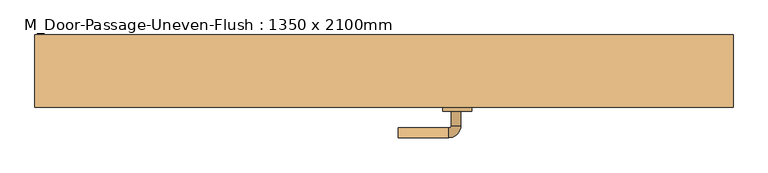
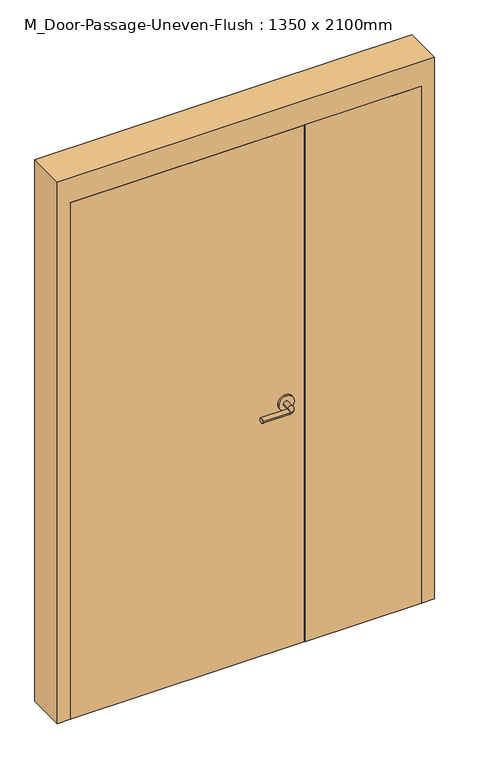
"""IFC4 building model written with IfcOpenShell, lengths in millimetres: door geometry, M_Door-Passage-Uneven-Flush : 1350 x 2100mm."""

import ifcopenshell
import ifcopenshell.guid

model = None  # the IFC model being written
_history = None  # IfcOwnerHistory: only IFC2X3 demands one
_inside = {}  # id of a spatial element -> (the spatial element, [elements in it])
_under = {}  # id of a project, library or spatial element -> (it, [spatial elements below it])
_declared = {}  # id of a project -> (the project, [libraries it declares])
_typed = {}  # id of a type object -> (the type object, [elements of that type])
_made_of = {}  # id of a material, layer set ... -> (it, [elements and type objects made of it])


def new_model(schema):
    """Start an empty IFC model of exactly this schema.

    Asked for "IFC4X3", IfcOpenShell would pick the latest addendum, in which some entities
    have other attributes; the version numbers below select the first issue.
    IFC2X3 requires an IfcOwnerHistory on every rooted entity: one is made here for all.
    """
    global model, _history
    if schema == "IFC4X3":
        model = ifcopenshell.file(schema_version=(4, 3, 0, 0))
    else:
        model = ifcopenshell.file(schema=schema)
    _inside.clear()
    _under.clear()
    _declared.clear()
    _typed.clear()
    _made_of.clear()
    _history = None
    if model.schema == "IFC2X3":
        org = make("IfcOrganization", Name="unknown")
        user = make(
            "IfcPersonAndOrganization",
            ThePerson=make("IfcPerson", FamilyName="unknown"),
            TheOrganization=org,
        )
        app = make(
            "IfcApplication",
            ApplicationDeveloper=org,
            Version="unknown",
            ApplicationFullName="unknown",
            ApplicationIdentifier="unknown",
        )
        _history = make(
            "IfcOwnerHistory",
            OwningUser=user,
            OwningApplication=app,
            ChangeAction="ADDED",
            CreationDate=0,
        )
    return model


def make(cls, **values):
    """One entity of the class cls with the attributes given. An attribute that is None is left unset."""
    return model.create_entity(
        cls, **{name: value for name, value in values.items() if value is not None}
    )


def rooted(cls, **values):
    """An entity with a GlobalId (a new one), such as an element, a storey or a relation."""
    return make(cls, GlobalId=ifcopenshell.guid.new(), OwnerHistory=_history, **values)


def si_unit(unit_type, name, prefix=None):
    """IfcSIUnit, for example si_unit("LENGTHUNIT", "METRE", prefix="MILLI")."""
    return make("IfcSIUnit", UnitType=unit_type, Prefix=prefix, Name=name)


def assignment(units):
    """IfcUnitAssignment: the units of a project."""
    return None if units is None else make("IfcUnitAssignment", Units=units)


def point(xyz):
    """IfcCartesianPoint."""
    return None if xyz is None else make("IfcCartesianPoint", Coordinates=xyz)


def direction(xyz):
    """IfcDirection."""
    return None if xyz is None else make("IfcDirection", DirectionRatios=xyz)


def frame(location, z_axis=None, x_axis=None):
    """IfcAxis2Placement3D, a coordinate frame: its origin and axes. An axis left out is left unset."""
    return make(
        "IfcAxis2Placement3D",
        Location=point(location),
        Axis=direction(z_axis),
        RefDirection=direction(x_axis),
    )


def frame_2d(location, x_axis=None):
    """IfcAxis2Placement2D, a coordinate frame in the plane: its origin and x axis."""
    return make(
        "IfcAxis2Placement2D", Location=point(location), RefDirection=direction(x_axis)
    )


def origin():
    """The frame at (0, 0, 0) with its axes left unset."""
    return frame((0.0, 0.0, 0.0))


def origin_with_axes():
    """The frame at (0, 0, 0) with the z axis (0, 0, 1) and the x axis (1, 0, 0) written out."""
    return frame((0.0, 0.0, 0.0), z_axis=(0.0, 0.0, 1.0), x_axis=(1.0, 0.0, 0.0))


def place(relative_to, where):
    """IfcLocalPlacement: puts the frame where relative to a parent placement (None: the world)."""
    return make(
        "IfcLocalPlacement", PlacementRelTo=relative_to, RelativePlacement=where
    )


def context(
    kind, dimensions, precision=None, world=None, true_north=None, identifier=None
):
    """IfcGeometricRepresentationContext, for example the 3D "Model" context."""
    return make(
        "IfcGeometricRepresentationContext",
        ContextIdentifier=identifier,
        ContextType=kind,
        CoordinateSpaceDimension=dimensions,
        Precision=precision,
        WorldCoordinateSystem=world,
        TrueNorth=true_north,
    )


def project(units=None, contexts=None):
    """IfcProject with its units and contexts."""
    return rooted(
        "IfcProject",
        Name="project",
        RepresentationContexts=contexts,
        UnitsInContext=assignment(units),
    )


def spatial(cls, under=None, at=None, **own):
    """A site, building, storey or space (cls), placed at a placement, below another one or the project."""
    s = rooted(cls, ObjectPlacement=at, **own)
    if under is not None:
        _under.setdefault(under.id(), (under, []))[1].append(s)
    return s


def polyline(points):
    """IfcPolyline through the points."""
    return make("IfcPolyline", Points=[point(p) for p in points])


def circle_curve(where, radius):
    """IfcCircle in the frame where."""
    return make("IfcCircle", Position=where, Radius=radius)


def ellipse_curve(where, semi_axis1, semi_axis2):
    """IfcEllipse in the frame where."""
    return make(
        "IfcEllipse", Position=where, SemiAxis1=semi_axis1, SemiAxis2=semi_axis2
    )


def trimmed(basis, trim1, trim2, sense, master):
    """IfcTrimmedCurve: the piece of a basis curve between two trims."""
    return make(
        "IfcTrimmedCurve",
        BasisCurve=basis,
        Trim1=trim1,
        Trim2=trim2,
        SenseAgreement=sense,
        MasterRepresentation=master,
    )


def segment(curve, same_sense, transition):
    """IfcCompositeCurveSegment."""
    return make(
        "IfcCompositeCurveSegment",
        Transition=transition,
        SameSense=same_sense,
        ParentCurve=curve,
    )


def composite_curve(segments, self_intersect=None):
    """IfcCompositeCurve: segments joined end to end."""
    return make("IfcCompositeCurve", Segments=segments, SelfIntersect=self_intersect)


def outline(outer, holes=None, kind="AREA"):
    """IfcArbitraryClosedProfileDef: a profile drawn as a closed curve; with holes, ...WithVoids."""
    if holes is None:
        return make("IfcArbitraryClosedProfileDef", ProfileType=kind, OuterCurve=outer)
    return make(
        "IfcArbitraryProfileDefWithVoids",
        ProfileType=kind,
        OuterCurve=outer,
        InnerCurves=holes,
    )


def extrude(swept, where, along, depth):
    """IfcExtrudedAreaSolid: the profile swept, set in the frame where, extruded along a direction by depth."""
    return make(
        "IfcExtrudedAreaSolid",
        SweptArea=swept,
        Position=where,
        ExtrudedDirection=direction(along),
        Depth=depth,
    )


def faces_of(points, faces, orient=None, outer=None):
    """IfcFace entities. A face is a list of loops; a loop is a list of indices into points, from 0.

    orient and outer hold one flag for each loop. By default every Orientation is true, the
    first loop of a face is its IfcFaceOuterBound and the others are IfcFaceBound.
    """
    made = []
    for i, loops in enumerate(faces):
        bounds = []
        for j, loop in enumerate(loops):
            is_outer = j == 0 if outer is None else outer[i][j]
            bounds.append(
                make(
                    "IfcFaceOuterBound" if is_outer else "IfcFaceBound",
                    Bound=make("IfcPolyLoop", Polygon=[points[k] for k in loop]),
                    Orientation=True if orient is None else orient[i][j],
                )
            )
        made.append(make("IfcFace", Bounds=bounds))
    return made


def faceted_brep(points, faces, orient=None, outer=None, voids=None):
    """IfcFacetedBrep: a solid bounded by flat faces; with voids (closed shells), ...WithVoids."""
    shared = [point(p) for p in points]
    hull = make("IfcClosedShell", CfsFaces=faces_of(shared, faces, orient, outer))
    if voids is None:
        return make("IfcFacetedBrep", Outer=hull)
    return make(
        "IfcFacetedBrepWithVoids",
        Outer=hull,
        Voids=[
            make(cls, CfsFaces=faces_of(shared, fs, o, b)) for cls, fs, o, b in voids
        ],
    )


def shape(context_of_items, identifier, shape_type, items):
    """IfcShapeRepresentation: the items that make up one representation, for example the "Body"."""
    return make(
        "IfcShapeRepresentation",
        ContextOfItems=context_of_items,
        RepresentationIdentifier=identifier,
        RepresentationType=shape_type,
        Items=items,
    )


def source(mapping_origin, context_of_items, identifier, shape_type, items):
    """IfcRepresentationMap: a shape defined once, which mapped items show again and again."""
    return make(
        "IfcRepresentationMap",
        MappingOrigin=mapping_origin,
        MappedRepresentation=shape(context_of_items, identifier, shape_type, items),
    )


def transform(
    local_origin,
    x_axis=None,
    y_axis=None,
    z_axis=None,
    scale=None,
    scale2=None,
    scale3=None,
    uniform=True,
):
    """IfcCartesianTransformationOperator3D, or its non-uniform kind. x_axis, y_axis, z_axis: its Axis1, 2, 3."""
    if uniform:
        return make(
            "IfcCartesianTransformationOperator3D",
            Axis1=direction(x_axis),
            Axis2=direction(y_axis),
            LocalOrigin=point(local_origin),
            Scale=scale,
            Axis3=direction(z_axis),
        )
    return make(
        "IfcCartesianTransformationOperator3DnonUniform",
        Axis1=direction(x_axis),
        Axis2=direction(y_axis),
        LocalOrigin=point(local_origin),
        Scale=scale,
        Axis3=direction(z_axis),
        Scale2=scale2,
        Scale3=scale3,
    )


def mapped(mapping_source, mapping_target):
    """IfcMappedItem: shows the shape of a source again, moved by a transform."""
    return make(
        "IfcMappedItem", MappingSource=mapping_source, MappingTarget=mapping_target
    )


def made_of(thing, what):
    """Note that an element or type object is made of a material, layer set ...; save() writes the relation."""
    if what is not None:
        _made_of.setdefault(what.id(), (what, []))[1].append(thing)
    return thing


def element(
    cls,
    number,
    at=None,
    inside=None,
    cuts=None,
    type_object=None,
    material=None,
    context=None,
    identifier="Body",
    shape_type=None,
    held_by="IfcProductDefinitionShape",
    body=None,
    shapes=None,
    **own,
):
    """One element of the class cls, such as IfcWall. Its Tag is "e" and its number.

    at: its placement. inside: the storey or other place that contains it. cuts: it is an
    opening in that element (IfcRelVoidsElement). A single representation is given by context,
    identifier, shape_type and body (its items); several are given by shapes. held_by: the class
    of the entity that holds the representations. save() writes the other relations.
    """
    e = rooted(cls, Tag="e%d" % number, ObjectPlacement=at, **own)
    if body is not None:
        shapes = [shape(context, identifier, shape_type, body)]
    if shapes is not None:
        e.Representation = make(held_by, Representations=shapes)
    if inside is not None:
        _inside.setdefault(inside.id(), (inside, []))[1].append(e)
    if cuts is not None:
        rooted(
            "IfcRelVoidsElement", RelatingBuildingElement=cuts, RelatedOpeningElement=e
        )
    if type_object is not None:
        _typed.setdefault(type_object.id(), (type_object, []))[1].append(e)
    return made_of(e, material)


def aggregate(whole, parts):
    """IfcRelAggregates: a whole, such as a stair, and the parts it consists of."""
    return rooted("IfcRelAggregates", RelatingObject=whole, RelatedObjects=parts)


def save(model, path):
    """Write the relations noted so far, then the file.

    IfcRelAggregates (storeys below a building ...), IfcRelContainedInSpatialStructure (elements
    in a storey), IfcRelDefinesByType, IfcRelAssociatesMaterial and IfcRelDeclares: one each for
    every whole, place, type object, material and project.
    """
    for whole, parts in _under.values():
        aggregate(whole, parts)
    for where, things in _inside.values():
        rooted(
            "IfcRelContainedInSpatialStructure",
            RelatedElements=things,
            RelatingStructure=where,
        )
    for kind, things in _typed.values():
        rooted("IfcRelDefinesByType", RelatedObjects=things, RelatingType=kind)
    for what, things in _made_of.values():
        rooted("IfcRelAssociatesMaterial", RelatedObjects=things, RelatingMaterial=what)
    for by, libraries in _declared.values():
        rooted("IfcRelDeclares", RelatingContext=by, RelatedDefinitions=libraries)
    model.write(path)


def plane_surface(at):
    """IfcPlane: the flat surface through the origin of the frame at, square to its z axis."""
    return make("IfcPlane", Position=at)


def cylinder_surface(at, radius):
    """IfcCylindricalSurface: all points at the distance radius from the z axis of the frame at."""
    return make("IfcCylindricalSurface", Position=at, Radius=radius)


def revolved_surface(curve, axis_point, axis_direction):
    """IfcSurfaceOfRevolution: the curve turned about the line through axis_point along axis_direction."""
    return make(
        "IfcSurfaceOfRevolution",
        SweptCurve=make("IfcArbitraryOpenProfileDef", ProfileType="CURVE", Curve=curve),
        AxisPosition=make("IfcAxis1Placement", Location=point(axis_point), Axis=direction(axis_direction)),
    )


def advanced_brep(points, edges, surfaces, faces):
    """IfcAdvancedBrep: a solid bounded by faces that lie on surfaces and meet in shared edges.

    An edge is (start, end): straight between two places in points (the first is 0);
    or (start, end, curve); or (start, end, curve, False) where it runs against its curve.
    A face is (place in surfaces, loops), or (place, loops, False) where it looks against
    its surface's normal. A loop lists edges by number (the first is 1), with a minus sign
    where the edge is run from its end to its start. The first loop is the outer one.
    """
    corners = [point(p) for p in points]
    vertices = [make("IfcVertexPoint", VertexGeometry=c) for c in corners]
    made = []
    for start, end, *more in edges:
        made.append(
            make(
                "IfcEdgeCurve",
                EdgeStart=vertices[start],
                EdgeEnd=vertices[end],
                EdgeGeometry=more[0] if more else make("IfcPolyline", Points=[corners[start], corners[end]]),
                SameSense=more[1] if len(more) > 1 else True,
            )
        )
    hull = []
    for where, loops, *sense in faces:
        bounds = []
        for j, loop in enumerate(loops):
            ring = [make("IfcOrientedEdge", EdgeElement=made[abs(k) - 1], Orientation=k > 0) for k in loop]
            bounds.append(
                make(
                    "IfcFaceOuterBound" if j == 0 else "IfcFaceBound",
                    Bound=make("IfcEdgeLoop", EdgeList=ring),
                    Orientation=True,
                )
            )
        hull.append(make("IfcAdvancedFace", Bounds=bounds, FaceSurface=surfaces[where], SameSense=sense[0] if sense else True))
    return make("IfcAdvancedBrep", Outer=make("IfcClosedShell", CfsFaces=hull))


def m_door_passage_uneven_flush_1350_x_2100mm_8cd78c95(model_context):
    return source(origin(), model_context, "Body", "SolidModel", [
        advanced_brep(
        [(159.59375, -127.35, 1000.0), (139.59375, -127.35, 1000.0), (139.59375, -97.35, 1000.0), (159.59375, -97.35, 1000.0), (134.59375, -92.35, 1000.0), (134.59375, -72.35, 1000.0), (29.59375, -72.35, 1000.0), (29.59375, -92.35, 1000.0)],
        [
            (0, 1, circle_curve(frame((149.59375, -127.35, 1000.0), z_axis=(0.0, -1.0, 0.0), x_axis=(-1.0, 0.0, 0.0)), 10.0)),
            (1, 0, circle_curve(frame((149.59375, -127.35, 1000.0), z_axis=(0.0, -1.0, 0.0), x_axis=(-1.0, 0.0, 0.0)), 10.0)),
            (1, 2),
            (2, 3, circle_curve(frame((149.59375, -97.35, 1000.0), z_axis=(0.0, -1.0, 0.0), x_axis=(-1.0, 0.0, 0.0)), 10.0)),
            (3, 0),
            (3, 2, circle_curve(frame((149.59375, -97.35, 1000.0), z_axis=(0.0, -1.0, 0.0), x_axis=(-1.0, 0.0, 0.0)), 10.0)),
            (4, 5, circle_curve(frame((134.59375, -82.35, 1000.0), z_axis=(1.0, 0.0, 0.0), x_axis=(0.0, -1.0, 0.0)), 10.0)),
            (5, 3, circle_curve(frame((134.59375, -97.35, 1000.0), z_axis=(0.0, 0.0, -1.0), x_axis=(1.0, 0.0, 0.0)), 25.0)),
            (2, 4, circle_curve(frame((134.59375, -97.35, 1000.0), z_axis=(0.0, 0.0, 1.0), x_axis=(1.0, 0.0, 0.0)), 5.0)),
            (5, 4, circle_curve(frame((134.59375, -82.35, 1000.0), z_axis=(1.0, 0.0, 0.0), x_axis=(0.0, -1.0, 0.0)), 10.0)),
            (6, 7, circle_curve(frame((29.59375, -82.35, 1000.0), z_axis=(-1.0, 0.0, 0.0), x_axis=(0.0, -1.0, 0.0)), 10.0)),
            (7, 6, circle_curve(frame((29.59375, -82.35, 1000.0), z_axis=(-1.0, 0.0, 0.0), x_axis=(0.0, -1.0, 0.0)), 10.0)),
            (4, 7),
            (6, 5),
        ],
        [
            plane_surface(frame((149.59375, -127.35, 1000.0), z_axis=(0.0, -1.0, 0.0), x_axis=(0.0, 0.0, 1.0))),
            cylinder_surface(frame((149.59375, -127.35, 1000.0), z_axis=(0.0, -1.0, 0.0), x_axis=(-1.0, 0.0, 0.0)), 10.0),
            revolved_surface(trimmed(ellipse_curve(frame((149.59375, -97.35, 1000.0), z_axis=(0.0, 1.0, 0.0), x_axis=(-1.0, 0.0, 0.0)), 10.0, 10.0), [point((159.59375, -97.35, 1000.0))], [point((139.59375, -97.35, 1000.0))], True, "CARTESIAN"), (134.59375, -97.35, 1000.0), (0.0, 0.0, -1.0)),
            revolved_surface(trimmed(ellipse_curve(frame((149.59375, -97.35, 1000.0), z_axis=(0.0, 1.0, 0.0), x_axis=(-1.0, 0.0, 0.0)), 10.0, 10.0), [point((139.59375, -97.35, 1000.0))], [point((159.59375, -97.35, 1000.0))], True, "CARTESIAN"), (134.59375, -97.35, 1000.0), (0.0, 0.0, -1.0)),
            plane_surface(frame((29.59375, -82.35, 1000.0), z_axis=(-1.0, 0.0, 0.0), x_axis=(0.0, 0.0, 1.0))),
            cylinder_surface(frame((134.59375, -82.35, 1000.0), z_axis=(1.0, 0.0, 0.0), x_axis=(0.0, -1.0, 0.0)), 10.0),
        ],
        [
            (0, [[1, 2]]),
            (1, [[3, 4, 5, -2]]),
            (1, [[-5, 6, -3, -1]]),
            (2, [[7, 8, -4, 9]]),
            (3, [[10, -9, -6, -8]]),
            (4, [[11, 12]]),
            (5, [[13, -11, 14, -7]]),
            (5, [[-14, -12, -13, -10]]),
        ],
    ),
        extrude(outline(composite_curve([segment(trimmed(circle_curve(frame_2d((1000.0, 152.09375)), 30.0), [point((1000.0, 182.09375))], [point((1000.0, 122.09375))], False, "CARTESIAN"), True, "CONTINUOUS"), segment(trimmed(circle_curve(frame_2d((1000.0, 152.09375)), 30.0), [point((1000.0, 122.09375))], [point((1000.0, 182.09375))], False, "CARTESIAN"), True, "CONTINUOUS")], self_intersect=False)), frame((0.0, -135.35, 0.0), z_axis=(0.0, 1.0, 0.0), x_axis=(0.0, 0.0, 1.0)), (0.0, 0.0, 1.0), 8.0),
        advanced_brep(
        [(159.59375, -188.35, 1000.0), (139.59375, -188.35, 1000.0), (159.59375, -218.35, 1000.0), (139.59375, -218.35, 1000.0), (134.59375, -223.35, 1000.0), (134.59375, -243.35, 1000.0), (29.59375, -243.35, 1000.0), (29.59375, -223.35, 1000.0)],
        [
            (0, 1, circle_curve(frame((149.59375, -188.35, 1000.0), z_axis=(0.0, 1.0, 0.0), x_axis=(-1.0, 0.0, 0.0)), 10.0)),
            (1, 0, circle_curve(frame((149.59375, -188.35, 1000.0), z_axis=(0.0, 1.0, 0.0), x_axis=(-1.0, 0.0, 0.0)), 10.0)),
            (0, 2),
            (2, 3, circle_curve(frame((149.59375, -218.35, 1000.0), z_axis=(0.0, 1.0, 0.0), x_axis=(-1.0, 0.0, 0.0)), 10.0)),
            (3, 1),
            (3, 2, circle_curve(frame((149.59375, -218.35, 1000.0), z_axis=(0.0, 1.0, 0.0), x_axis=(-1.0, 0.0, 0.0)), 10.0)),
            (4, 3, circle_curve(frame((134.59375, -218.35, 1000.0), z_axis=(0.0, 0.0, 1.0), x_axis=(1.0, 0.0, 0.0)), 5.0)),
            (2, 5, circle_curve(frame((134.59375, -218.35, 1000.0), z_axis=(0.0, 0.0, -1.0), x_axis=(1.0, 0.0, 0.0)), 25.0)),
            (5, 4, circle_curve(frame((134.59375, -233.35, 1000.0), z_axis=(1.0, 0.0, 0.0), x_axis=(0.0, 1.0, 0.0)), 10.0)),
            (4, 5, circle_curve(frame((134.59375, -233.35, 1000.0), z_axis=(1.0, 0.0, 0.0), x_axis=(0.0, 1.0, 0.0)), 10.0)),
            (6, 7, circle_curve(frame((29.59375, -233.35, 1000.0), z_axis=(-1.0, 0.0, 0.0), x_axis=(0.0, 1.0, 0.0)), 10.0)),
            (7, 6, circle_curve(frame((29.59375, -233.35, 1000.0), z_axis=(-1.0, 0.0, 0.0), x_axis=(0.0, 1.0, 0.0)), 10.0)),
            (5, 6),
            (7, 4),
        ],
        [
            plane_surface(frame((149.59375, -188.35, 1000.0), z_axis=(0.0, 1.0, 0.0), x_axis=(0.0, 0.0, 1.0))),
            cylinder_surface(frame((149.59375, -188.35, 1000.0), z_axis=(0.0, 1.0, 0.0), x_axis=(-1.0, 0.0, 0.0)), 10.0),
            revolved_surface(trimmed(ellipse_curve(frame((149.59375, -218.35, 1000.0), z_axis=(0.0, 1.0, 0.0), x_axis=(-1.0, 0.0, 0.0)), 10.0, 10.0), [point((159.59375, -218.35, 1000.0))], [point((139.59375, -218.35, 1000.0))], True, "CARTESIAN"), (134.59375, -218.35, 1000.0), (0.0, 0.0, -1.0)),
            revolved_surface(trimmed(ellipse_curve(frame((149.59375, -218.35, 1000.0), z_axis=(0.0, 1.0, 0.0), x_axis=(-1.0, 0.0, 0.0)), 10.0, 10.0), [point((139.59375, -218.35, 1000.0))], [point((159.59375, -218.35, 1000.0))], True, "CARTESIAN"), (134.59375, -218.35, 1000.0), (0.0, 0.0, -1.0)),
            plane_surface(frame((29.59375, -233.35, 1000.0), z_axis=(-1.0, 0.0, 0.0), x_axis=(0.0, 0.0, 1.0))),
            cylinder_surface(frame((134.59375, -233.35, 1000.0), z_axis=(1.0, 0.0, 0.0), x_axis=(0.0, 1.0, 0.0)), 10.0),
        ],
        [
            (0, [[1, 2]]),
            (1, [[-1, 3, 4, 5]]),
            (1, [[-2, -5, 6, -3]]),
            (2, [[7, -4, 8, 9]]),
            (3, [[-8, -6, -7, 10]]),
            (4, [[11, 12]]),
            (5, [[-9, 13, -12, 14]]),
            (5, [[-10, -14, -11, -13]]),
        ],
    ),
        extrude(outline(composite_curve([segment(trimmed(circle_curve(frame_2d((1000.0, 152.09375)), 30.0), [point((1000.0, 182.09375))], [point((1000.0, 122.09375))], False, "CARTESIAN"), True, "CONTINUOUS"), segment(trimmed(circle_curve(frame_2d((1000.0, 152.09375)), 30.0), [point((1000.0, 122.09375))], [point((1000.0, 182.09375))], False, "CARTESIAN"), True, "CONTINUOUS")], self_intersect=False)), frame((0.0, -188.35, 0.0), z_axis=(0.0, 1.0, 0.0), x_axis=(0.0, 0.0, 1.0)), (0.0, 0.0, 1.0), 8.0),
        extrude(outline(polyline([(675.0, -135.35), (675.0, -180.35), (226.6, -180.35), (226.6, -135.35), (675.0, -135.35)])), origin_with_axes(), (0.0, 0.0, 1.0), 2100.0),
        faceted_brep([(675.0, -130.5875, 0.0), (659.125, -130.5875, 0.0), (659.125, -79.5625, 0.0), (675.0, -79.5625, 0.0), (675.0, -30.35, 0.0), (725.0, -30.35, 0.0), (725.0, -180.35, 0.0), (675.0, -180.35, 0.0), (675.0, -180.35, 2100.0), (675.0, -130.5875, 2100.0), (725.0, -180.35, 2200.0), (-725.0, -180.35, 2200.0), (-725.0, -180.35, 0.0), (-675.0, -180.35, 0.0), (-675.0, -180.35, 2100.0), (725.0, -30.35, 2200.0), (675.0, -30.35, 2100.0), (-675.0, -30.35, 2100.0), (-675.0, -30.35, 0.0), (-725.0, -30.35, 0.0), (-725.0, -30.35, 2200.0), (675.0, -79.5625, 2100.0), (659.125, -79.5625, 2084.125), (-659.125, -79.5625, 2084.125), (-659.125, -79.5625, 0.0), (-675.0, -79.5625, 0.0), (-675.0, -79.5625, 2100.0), (659.125, -130.5875, 2084.125), (-675.0, -130.5875, 2100.0), (-675.0, -130.5875, 0.0), (-659.125, -130.5875, 0.0), (-659.125, -130.5875, 2084.125)], [[[0, 1, 2, 3, 4, 5, 6, 7]], [[7, 8, 9, 0]], [[6, 10, 11, 12, 13, 14, 8, 7]], [[5, 15, 10, 6]], [[4, 16, 17, 18, 19, 20, 15, 5]], [[3, 21, 16, 4]], [[2, 22, 23, 24, 25, 26, 21, 3]], [[1, 27, 22, 2]], [[0, 9, 28, 29, 30, 31, 27, 1]], [[8, 14, 28, 9]], [[16, 21, 26, 17]], [[22, 27, 31, 23]], [[12, 19, 18, 25, 24, 30, 29, 13]], [[13, 29, 28, 14]], [[11, 20, 19, 12]], [[17, 26, 25, 18]], [[23, 31, 30, 24]], [[15, 20, 11, 10]]]),
        extrude(outline(polyline([(223.4, -135.35), (223.4, -180.35), (-675.0, -180.35), (-675.0, -135.35), (223.4, -135.35)])), origin_with_axes(), (0.0, 0.0, 1.0), 2100.0),
    ])


if __name__ == "__main__":
    model = new_model("IFC4")
    model_context = context("Model", 3, world=origin())
    ifc_project = project(units=[si_unit("LENGTHUNIT", "METRE", prefix="MILLI")], contexts=[model_context])
    site = spatial("IfcSite", under=ifc_project)
    building = spatial("IfcBuilding", under=site)
    placement = place(None, origin())
    m_door_passage_uneven_flush_1350_x_2100mm_shape = m_door_passage_uneven_flush_1350_x_2100mm_8cd78c95(model_context)
    element("IfcDoor", 1, ObjectType="M_Door-Passage-Uneven-Flush : 1350 x 2100mm", at=placement, inside=building, context=model_context, shape_type="MappedRepresentation", body=[
        mapped(m_door_passage_uneven_flush_1350_x_2100mm_shape, transform((0.0, 0.0, 0.0), x_axis=(1.0, 0.0, 0.0), y_axis=(0.0, 1.0, 0.0), z_axis=(0.0, 0.0, 1.0))),
    ])
    save(model, "model.ifc")
